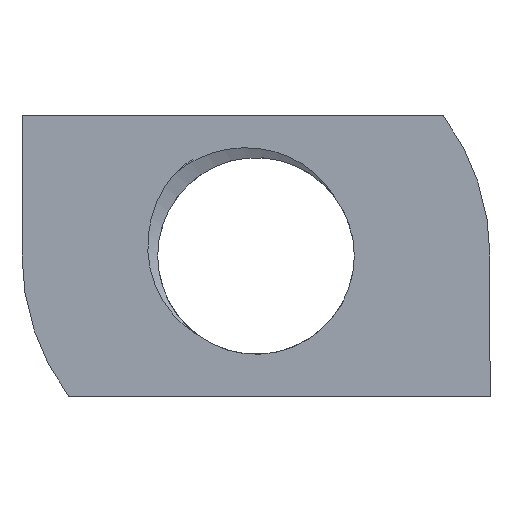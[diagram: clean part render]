
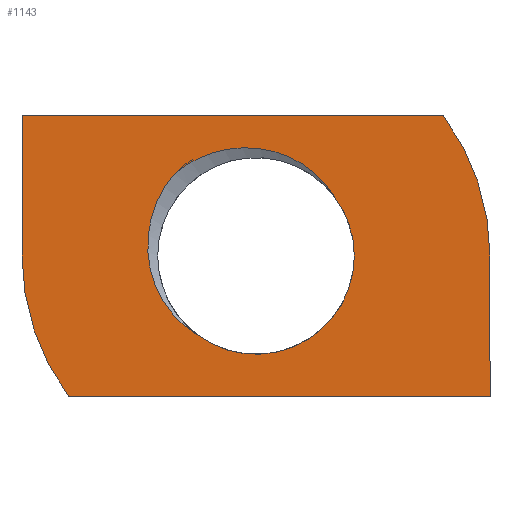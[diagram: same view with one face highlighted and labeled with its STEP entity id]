
A CAD part, front view. The second image highlights one B-rep face of the part: STEP entity #1143.
In plain terms, the highlighted planar face has unit normal (0, -1, 0).
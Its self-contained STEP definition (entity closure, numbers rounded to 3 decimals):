
#3 = CARTESIAN_POINT ( 'NONE',  ( -5., 0., 3. ) ) ;
#12 = VERTEX_POINT ( 'NONE', #309 ) ;
#24 = CARTESIAN_POINT ( 'NONE',  ( -2.315, 0., 0.08 ) ) ;
#31 = B_SPLINE_CURVE_WITH_KNOTS ( 'NONE', 3,
 ( #2766, #1912, #1620, #1334, #1040, #750, #459, #171, #2699, #2417, #2129, #1842, #1551, #1259, #969, #679 ),
 .UNSPECIFIED., .F., .F.,
 ( 4, 2, 2, 2, 2, 2, 2, 4 ),
 ( 0.003, 0.003, 0.004, 0.004, 0.005, 0.005, 0.006, 0.007 ),
 .UNSPECIFIED. ) ;
#63 = VERTEX_POINT ( 'NONE', #2484 ) ;
#87 = EDGE_CURVE ( 'NONE', #302, #12, #31, .T. ) ;
#103 = VECTOR ( 'NONE', #579, 1000. ) ;
#117 = CARTESIAN_POINT ( 'NONE',  ( -2.105, 0., 1.202 ) ) ;
#139 = CARTESIAN_POINT ( 'NONE',  ( 2.1, 0., 0. ) ) ;
#171 = CARTESIAN_POINT ( 'NONE',  ( 0.406, 0., 2.234 ) ) ;
#183 = CARTESIAN_POINT ( 'NONE',  ( 0., 0., 0. ) ) ;
#245 = CARTESIAN_POINT ( 'NONE',  ( -1.261, 0., -1.679 ) ) ;
#291 = PLANE ( 'NONE',  #991 ) ;
#302 = VERTEX_POINT ( 'NONE', #2363 ) ;
#309 = CARTESIAN_POINT ( 'NONE',  ( -1.751, 0., 1.751 ) ) ;
#316 = CARTESIAN_POINT ( 'NONE',  ( -2.319, 0., 0.246 ) ) ;
#325 = VERTEX_POINT ( 'NONE', #2014 ) ;
#339 = EDGE_CURVE ( 'NONE', #302, #1025, #2398, .T. ) ;
#405 = CARTESIAN_POINT ( 'NONE',  ( -1.95, 0., 1.49 ) ) ;
#459 = CARTESIAN_POINT ( 'NONE',  ( 0.713, 0., 2.122 ) ) ;
#471 = DIRECTION ( 'NONE',  ( -1., 0., 0. ) ) ;
#534 = CARTESIAN_POINT ( 'NONE',  ( -1.403, 0., -1.594 ) ) ;
#579 = DIRECTION ( 'NONE',  ( 0., 0., -1. ) ) ;
#597 = EDGE_LOOP ( 'NONE', ( #1610, #970, #2620, #1306 ) ) ;
#600 = CARTESIAN_POINT ( 'NONE',  ( -2.292, 0., 0.574 ) ) ;
#679 = CARTESIAN_POINT ( 'NONE',  ( -1.751, 0., 1.751 ) ) ;
#694 = CARTESIAN_POINT ( 'NONE',  ( -1.858, 0., 1.625 ) ) ;
#698 = ORIENTED_EDGE ( 'NONE', *, *, #1576, .F. ) ;
#750 = CARTESIAN_POINT ( 'NONE',  ( 0.861, 0., 2.048 ) ) ;
#761 = DIRECTION ( 'NONE',  ( 0., -1., 0. ) ) ;
#825 = CARTESIAN_POINT ( 'NONE',  ( -1.532, 0., -1.493 ) ) ;
#842 = CARTESIAN_POINT ( 'NONE',  ( 5., 0., -3. ) ) ;
#872 = CARTESIAN_POINT ( 'NONE',  ( 5., 0., 3. ) ) ;
#895 = CARTESIAN_POINT ( 'NONE',  ( -2.262, 0., 0.734 ) ) ;
#928 = EDGE_CURVE ( 'NONE', #1025, #2034, #1973, .T. ) ;
#940 = LINE ( 'NONE', #872, #103 ) ;
#969 = CARTESIAN_POINT ( 'NONE',  ( -1.499, 0., 1.965 ) ) ;
#970 = ORIENTED_EDGE ( 'NONE', *, *, #87, .F. ) ;
#991 = AXIS2_PLACEMENT_3D ( 'NONE', #3, #2534, #2247 ) ;
#1025 = VERTEX_POINT ( 'NONE', #139 ) ;
#1040 = CARTESIAN_POINT ( 'NONE',  ( 1.137, 0., 1.87 ) ) ;
#1053 = CARTESIAN_POINT ( 'NONE',  ( 0., 0., 0. ) ) ;
#1061 = FACE_BOUND ( 'NONE', #597, .T. ) ;
#1062 = EDGE_CURVE ( 'NONE', #325, #2249, #2031, .T. ) ;
#1114 = CARTESIAN_POINT ( 'NONE',  ( -1.766, 0., -1.264 ) ) ;
#1133 = EDGE_CURVE ( 'NONE', #2307, #1621, #940, .T. ) ;
#1143 = ADVANCED_FACE ( 'NONE', ( #2557, #1061 ), #291, .F. ) ;
#1250 = CARTESIAN_POINT ( 'NONE',  ( -1.261, 0., -1.679 ) ) ;
#1259 = CARTESIAN_POINT ( 'NONE',  ( -1.203, 0., 2.123 ) ) ;
#1267 = DIRECTION ( 'NONE',  ( 1., 0., 0. ) ) ;
#1274 = CARTESIAN_POINT ( 'NONE',  ( -1.751, 0., 1.751 ) ) ;
#1306 = ORIENTED_EDGE ( 'NONE', *, *, #928, .T. ) ;
#1334 = CARTESIAN_POINT ( 'NONE',  ( 1.264, 0., 1.767 ) ) ;
#1339 = B_SPLINE_CURVE_WITH_KNOTS ( 'NONE', 3,
 ( #1274, #694, #405, #117, #2649, #895, #600, #316, #24, #2555, #2269, #1989, #1696, #1407, #1114, #825, #534, #245 ),
 .UNSPECIFIED., .F., .F.,
 ( 4, 2, 2, 2, 2, 2, 2, 2, 4 ),
 ( 0., 0., 0.001, 0.001, 0.002, 0.002, 0.003, 0.003, 0.004 ),
 .UNSPECIFIED. ) ;
#1386 = VERTEX_POINT ( 'NONE', #1550 ) ;
#1407 = CARTESIAN_POINT ( 'NONE',  ( -1.871, 0., -1.135 ) ) ;
#1416 = AXIS2_PLACEMENT_3D ( 'NONE', #2298, #1722, #1434 ) ;
#1434 = DIRECTION ( 'NONE',  ( -1., 0., 0. ) ) ;
#1453 = DIRECTION ( 'NONE',  ( 0., 0., -1. ) ) ;
#1459 = EDGE_CURVE ( 'NONE', #2307, #1386, #2074, .T. ) ;
#1472 = DIRECTION ( 'NONE',  ( -1., 0., 0. ) ) ;
#1474 = EDGE_CURVE ( 'NONE', #2249, #63, #1859, .T. ) ;
#1486 = EDGE_CURVE ( 'NONE', #12, #2034, #1339, .T. ) ;
#1501 = CARTESIAN_POINT ( 'NONE',  ( 5., 0., 0. ) ) ;
#1522 = ORIENTED_EDGE ( 'NONE', *, *, #1459, .T. ) ;
#1550 = CARTESIAN_POINT ( 'NONE',  ( 4., 0., 3. ) ) ;
#1551 = CARTESIAN_POINT ( 'NONE',  ( -0.734, 0., 2.262 ) ) ;
#1557 = CARTESIAN_POINT ( 'NONE',  ( -5., 0., 3. ) ) ;
#1565 = DIRECTION ( 'NONE',  ( -1., 0., 0. ) ) ;
#1576 = EDGE_CURVE ( 'NONE', #325, #1386, #1848, .T. ) ;
#1610 = ORIENTED_EDGE ( 'NONE', *, *, #1486, .F. ) ;
#1620 = CARTESIAN_POINT ( 'NONE',  ( 1.494, 0., 1.531 ) ) ;
#1621 = VERTEX_POINT ( 'NONE', #842 ) ;
#1630 = AXIS2_PLACEMENT_3D ( 'NONE', #1053, #761, #471 ) ;
#1696 = CARTESIAN_POINT ( 'NONE',  ( -2.049, 0., -0.86 ) ) ;
#1722 = DIRECTION ( 'NONE',  ( 0., 1., 0. ) ) ;
#1741 = CARTESIAN_POINT ( 'NONE',  ( -5., 0., 3. ) ) ;
#1762 = DIRECTION ( 'NONE',  ( 0., 1., 0. ) ) ;
#1822 = ORIENTED_EDGE ( 'NONE', *, *, #2113, .T. ) ;
#1842 = CARTESIAN_POINT ( 'NONE',  ( -0.571, 0., 2.292 ) ) ;
#1848 = LINE ( 'NONE', #1557, #2789 ) ;
#1856 = DIRECTION ( 'NONE',  ( 0., -1., 0. ) ) ;
#1859 = CIRCLE ( 'NONE', #2141, 5. ) ;
#1912 = CARTESIAN_POINT ( 'NONE',  ( 1.595, 0., 1.401 ) ) ;
#1973 = CIRCLE ( 'NONE', #2636, 2.1 ) ;
#1989 = CARTESIAN_POINT ( 'NONE',  ( -2.122, 0., -0.714 ) ) ;
#2014 = CARTESIAN_POINT ( 'NONE',  ( -5., 0., 3. ) ) ;
#2031 = LINE ( 'NONE', #1741, #2270 ) ;
#2034 = VERTEX_POINT ( 'NONE', #1250 ) ;
#2050 = CARTESIAN_POINT ( 'NONE',  ( 0., 0., 0. ) ) ;
#2074 = CIRCLE ( 'NONE', #1630, 5. ) ;
#2113 = EDGE_CURVE ( 'NONE', #63, #1621, #2706, .T. ) ;
#2129 = CARTESIAN_POINT ( 'NONE',  ( -0.244, 0., 2.319 ) ) ;
#2138 = DIRECTION ( 'NONE',  ( 1., 0., 0. ) ) ;
#2141 = AXIS2_PLACEMENT_3D ( 'NONE', #183, #1856, #1565 ) ;
#2213 = VECTOR ( 'NONE', #2138, 1000. ) ;
#2221 = CARTESIAN_POINT ( 'NONE',  ( -5., 0., 0. ) ) ;
#2247 = DIRECTION ( 'NONE',  ( -1., 0., 0. ) ) ;
#2249 = VERTEX_POINT ( 'NONE', #2221 ) ;
#2269 = CARTESIAN_POINT ( 'NONE',  ( -2.235, 0., -0.404 ) ) ;
#2270 = VECTOR ( 'NONE', #1453, 1000. ) ;
#2298 = CARTESIAN_POINT ( 'NONE',  ( 0., 0., 0. ) ) ;
#2307 = VERTEX_POINT ( 'NONE', #1501 ) ;
#2332 = ORIENTED_EDGE ( 'NONE', *, *, #1474, .T. ) ;
#2363 = CARTESIAN_POINT ( 'NONE',  ( 1.679, 0., 1.261 ) ) ;
#2398 = CIRCLE ( 'NONE', #1416, 2.1 ) ;
#2417 = CARTESIAN_POINT ( 'NONE',  ( -0.081, 0., 2.315 ) ) ;
#2425 = CARTESIAN_POINT ( 'NONE',  ( -5., 0., -3. ) ) ;
#2484 = CARTESIAN_POINT ( 'NONE',  ( -4., 0., -3. ) ) ;
#2526 = ORIENTED_EDGE ( 'NONE', *, *, #1062, .T. ) ;
#2534 = DIRECTION ( 'NONE',  ( 0., 1., 0. ) ) ;
#2550 = EDGE_LOOP ( 'NONE', ( #2526, #2332, #1822, #2635, #1522, #698 ) ) ;
#2555 = CARTESIAN_POINT ( 'NONE',  ( -2.274, 0., -0.243 ) ) ;
#2557 = FACE_OUTER_BOUND ( 'NONE', #2550, .T. ) ;
#2620 = ORIENTED_EDGE ( 'NONE', *, *, #339, .T. ) ;
#2635 = ORIENTED_EDGE ( 'NONE', *, *, #1133, .F. ) ;
#2636 = AXIS2_PLACEMENT_3D ( 'NONE', #2050, #1762, #1472 ) ;
#2649 = CARTESIAN_POINT ( 'NONE',  ( -2.169, 0., 1.048 ) ) ;
#2699 = CARTESIAN_POINT ( 'NONE',  ( 0.246, 0., 2.273 ) ) ;
#2706 = LINE ( 'NONE', #2425, #2213 ) ;
#2766 = CARTESIAN_POINT ( 'NONE',  ( 1.679, 0., 1.261 ) ) ;
#2789 = VECTOR ( 'NONE', #1267, 1000. ) ;
